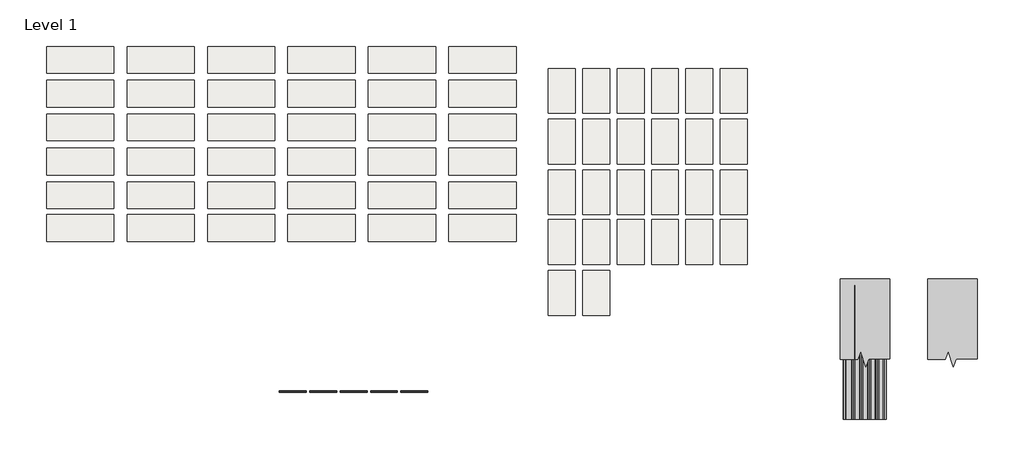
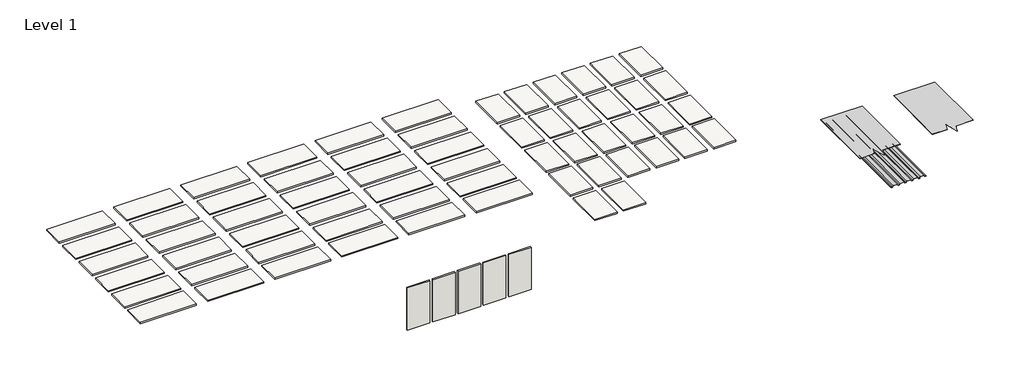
# One storey: 62 slabs, 5 walls, 3 proxies.
"""IFC4 building model written with IfcOpenShell, lengths in millimetres."""

from ifc_helpers import new_model, si_unit, frame, origin, origin_with_axes, place, context, project, spatial, polyline, outline, extrude, transform, mapped, element, save
from components import proxy_b7d9e8bd, section_mask1_section_mask_d04c1bcf

model = new_model("IFC4")

# Units and contexts
model_context = context("Model", 3, world=origin())
ifc_project = project(units=[si_unit("LENGTHUNIT", "METRE", prefix="MILLI")], contexts=[model_context])

# Site, building, storey
site = spatial("IfcSite", under=ifc_project)
building = spatial("IfcBuilding", under=site)
storey = spatial("IfcBuildingStorey", under=building, Name="Level 1", Elevation=0.0)

# Proxies
placement = place(None, origin())
proxy_shape = proxy_b7d9e8bd(model_context)
element("IfcBuildingElementProxy", 1, Name="Metal_Siding_Trapezoidal-Wall-Panel_Steelscape : 36\" Trapezoidal Wall Panel", ObjectType="Metal_Siding_Trapezoidal-Wall-Panel_Steelscape : 36\" Trapezoidal Wall Panel", at=placement, inside=storey, context=model_context, shape_type="MappedRepresentation", body=[
    mapped(proxy_shape, transform((8066.2424454, 2573.2522943, 0.0), x_axis=(1.0, 0.0, 0.0), y_axis=(0.0, 1.0, 0.0), z_axis=(0.0, 0.0, 1.0))),
])
section_mask1_section_mask_shape = section_mask1_section_mask_d04c1bcf(model_context)
element("IfcBuildingElementProxy", 2, Name="Section Mask1 : Section Mask", ObjectType="Section Mask1 : Section Mask", at=placement, inside=storey, context=model_context, shape_type="MappedRepresentation", body=[
    mapped(section_mask1_section_mask_shape, transform((1955.8, 0.0, 0.0), x_axis=(1.0, 0.0, 0.0), y_axis=(0.0, 1.0, 0.0), z_axis=(0.0, 0.0, 1.0))),
])
element("IfcBuildingElementProxy", 3, Name="Section Mask2 : Section Mask", ObjectType="Section Mask2 : Section Mask", at=placement, inside=storey, context=model_context, shape_type="MappedRepresentation", body=[
    mapped(section_mask1_section_mask_shape, transform((-31.75, 0.0, 0.0), x_axis=(1.0, 0.0, 0.0), y_axis=(0.0, 1.0, 0.0), z_axis=(0.0, 0.0, 1.0))),
])

# Slabs
element("IfcSlab", 4, ObjectType="Metal Siding - PAINTED - Steelscape", at=placement, inside=storey, context=model_context, shape_type="SweptSolid", body=[
    extrude(outline(polyline([(-9006.1610252, 7398.0362798), (-10530.1610252, 7398.0362798), (-10530.1610252, 8007.6362798), (-9006.1610252, 8007.6362798), (-9006.1610252, 7398.0362798)])), frame((0.0, 0.0, -38.1), z_axis=(0.0, 0.0, 1.0), x_axis=(1.0, 0.0, 0.0)), (0.0, 0.0, 1.0), 38.1),
])
element("IfcSlab", 5, ObjectType="Metal Siding - PAINTED - Steelscape", at=placement, inside=storey, context=model_context, shape_type="SweptSolid", body=[
    extrude(outline(polyline([(-9006.1610252, 6629.6862798), (-10530.1610252, 6629.6862798), (-10530.1610252, 7239.2862798), (-9006.1610252, 7239.2862798), (-9006.1610252, 6629.6862798)])), frame((0.0, 0.0, -38.1), z_axis=(0.0, 0.0, 1.0), x_axis=(1.0, 0.0, 0.0)), (0.0, 0.0, 1.0), 38.1),
])
element("IfcSlab", 6, ObjectType="Metal Siding - PAINTED - Steelscape", at=placement, inside=storey, context=model_context, shape_type="SweptSolid", body=[
    extrude(outline(polyline([(-9006.1610252, 5861.3362798), (-10530.1610252, 5861.3362798), (-10530.1610252, 6470.9362798), (-9006.1610252, 6470.9362798), (-9006.1610252, 5861.3362798)])), frame((0.0, 0.0, -38.1), z_axis=(0.0, 0.0, 1.0), x_axis=(1.0, 0.0, 0.0)), (0.0, 0.0, 1.0), 38.1),
])
element("IfcSlab", 7, ObjectType="Metal Siding - PAINTED - Steelscape", at=placement, inside=storey, context=model_context, shape_type="SweptSolid", body=[
    extrude(outline(polyline([(-9006.1610252, 5086.6362798), (-10530.1610252, 5086.6362798), (-10530.1610252, 5696.2362798), (-9006.1610252, 5696.2362798), (-9006.1610252, 5086.6362798)])), frame((0.0, 0.0, -38.1), z_axis=(0.0, 0.0, 1.0), x_axis=(1.0, 0.0, 0.0)), (0.0, 0.0, 1.0), 38.1),
])
element("IfcSlab", 8, ObjectType="Metal Siding - PAINTED - Steelscape", at=placement, inside=storey, context=model_context, shape_type="SweptSolid", body=[
    extrude(outline(polyline([(-9006.1610252, 4318.2862798), (-10530.1610252, 4318.2862798), (-10530.1610252, 4927.8862798), (-9006.1610252, 4927.8862798), (-9006.1610252, 4318.2862798)])), frame((0.0, 0.0, -38.1), z_axis=(0.0, 0.0, 1.0), x_axis=(1.0, 0.0, 0.0)), (0.0, 0.0, 1.0), 38.1),
])
element("IfcSlab", 9, ObjectType="Metal Siding - PAINTED - Steelscape", at=placement, inside=storey, context=model_context, shape_type="SweptSolid", body=[
    extrude(outline(polyline([(-9006.1610252, 3575.3362798), (-10530.1610252, 3575.3362798), (-10530.1610252, 4184.9362798), (-9006.1610252, 4184.9362798), (-9006.1610252, 3575.3362798)])), frame((0.0, 0.0, -38.1), z_axis=(0.0, 0.0, 1.0), x_axis=(1.0, 0.0, 0.0)), (0.0, 0.0, 1.0), 38.1),
])
element("IfcSlab", 10, ObjectType="Metal Siding - PAINTED - Steelscape", at=placement, inside=storey, context=model_context, shape_type="SweptSolid", body=[
    extrude(outline(polyline([(-7177.3610252, 7398.0362798), (-8701.3610252, 7398.0362798), (-8701.3610252, 8007.6362798), (-7177.3610252, 8007.6362798), (-7177.3610252, 7398.0362798)])), frame((0.0, 0.0, -38.1), z_axis=(0.0, 0.0, 1.0), x_axis=(1.0, 0.0, 0.0)), (0.0, 0.0, 1.0), 38.1),
])
element("IfcSlab", 11, ObjectType="Metal Siding - PAINTED - Steelscape", at=placement, inside=storey, context=model_context, shape_type="SweptSolid", body=[
    extrude(outline(polyline([(-7177.3610252, 6629.6862798), (-8701.3610252, 6629.6862798), (-8701.3610252, 7239.2862798), (-7177.3610252, 7239.2862798), (-7177.3610252, 6629.6862798)])), frame((0.0, 0.0, -38.1), z_axis=(0.0, 0.0, 1.0), x_axis=(1.0, 0.0, 0.0)), (0.0, 0.0, 1.0), 38.1),
])
element("IfcSlab", 12, ObjectType="Metal Siding - PAINTED - Steelscape", at=placement, inside=storey, context=model_context, shape_type="SweptSolid", body=[
    extrude(outline(polyline([(-7177.3610252, 5861.3362798), (-8701.3610252, 5861.3362798), (-8701.3610252, 6470.9362798), (-7177.3610252, 6470.9362798), (-7177.3610252, 5861.3362798)])), frame((0.0, 0.0, -38.1), z_axis=(0.0, 0.0, 1.0), x_axis=(1.0, 0.0, 0.0)), (0.0, 0.0, 1.0), 38.1),
])
element("IfcSlab", 13, ObjectType="Metal Siding - PAINTED - Steelscape", at=placement, inside=storey, context=model_context, shape_type="SweptSolid", body=[
    extrude(outline(polyline([(-7177.3610252, 5086.6362798), (-8701.3610252, 5086.6362798), (-8701.3610252, 5696.2362798), (-7177.3610252, 5696.2362798), (-7177.3610252, 5086.6362798)])), frame((0.0, 0.0, -38.1), z_axis=(0.0, 0.0, 1.0), x_axis=(1.0, 0.0, 0.0)), (0.0, 0.0, 1.0), 38.1),
])
element("IfcSlab", 14, ObjectType="Metal Siding - PAINTED - Steelscape", at=placement, inside=storey, context=model_context, shape_type="SweptSolid", body=[
    extrude(outline(polyline([(-7177.3610252, 4318.2862798), (-8701.3610252, 4318.2862798), (-8701.3610252, 4927.8862798), (-7177.3610252, 4927.8862798), (-7177.3610252, 4318.2862798)])), frame((0.0, 0.0, -38.1), z_axis=(0.0, 0.0, 1.0), x_axis=(1.0, 0.0, 0.0)), (0.0, 0.0, 1.0), 38.1),
])
element("IfcSlab", 15, ObjectType="Metal Siding - PAINTED - Steelscape", at=placement, inside=storey, context=model_context, shape_type="SweptSolid", body=[
    extrude(outline(polyline([(-7177.3610252, 3575.3362798), (-8701.3610252, 3575.3362798), (-8701.3610252, 4184.9362798), (-7177.3610252, 4184.9362798), (-7177.3610252, 3575.3362798)])), frame((0.0, 0.0, -38.1), z_axis=(0.0, 0.0, 1.0), x_axis=(1.0, 0.0, 0.0)), (0.0, 0.0, 1.0), 38.1),
])
element("IfcSlab", 16, ObjectType="Metal Siding - PAINTED - Steelscape", at=placement, inside=storey, context=model_context, shape_type="SweptSolid", body=[
    extrude(outline(polyline([(-5348.5610252, 7398.0362798), (-6872.5610252, 7398.0362798), (-6872.5610252, 8007.6362798), (-5348.5610252, 8007.6362798), (-5348.5610252, 7398.0362798)])), frame((0.0, 0.0, -38.1), z_axis=(0.0, 0.0, 1.0), x_axis=(1.0, 0.0, 0.0)), (0.0, 0.0, 1.0), 38.1),
])
element("IfcSlab", 17, ObjectType="Metal Siding - PAINTED - Steelscape", at=placement, inside=storey, context=model_context, shape_type="SweptSolid", body=[
    extrude(outline(polyline([(-5348.5610252, 6629.6862798), (-6872.5610252, 6629.6862798), (-6872.5610252, 7239.2862798), (-5348.5610252, 7239.2862798), (-5348.5610252, 6629.6862798)])), frame((0.0, 0.0, -38.1), z_axis=(0.0, 0.0, 1.0), x_axis=(1.0, 0.0, 0.0)), (0.0, 0.0, 1.0), 38.1),
])
element("IfcSlab", 18, ObjectType="Metal Siding - PAINTED - Steelscape", at=placement, inside=storey, context=model_context, shape_type="SweptSolid", body=[
    extrude(outline(polyline([(-5348.5610252, 5861.3362798), (-6872.5610252, 5861.3362798), (-6872.5610252, 6470.9362798), (-5348.5610252, 6470.9362798), (-5348.5610252, 5861.3362798)])), frame((0.0, 0.0, -38.1), z_axis=(0.0, 0.0, 1.0), x_axis=(1.0, 0.0, 0.0)), (0.0, 0.0, 1.0), 38.1),
])
element("IfcSlab", 19, ObjectType="Metal Siding - PAINTED - Steelscape", at=placement, inside=storey, context=model_context, shape_type="SweptSolid", body=[
    extrude(outline(polyline([(-5348.5610252, 5086.6362798), (-6872.5610252, 5086.6362798), (-6872.5610252, 5696.2362798), (-5348.5610252, 5696.2362798), (-5348.5610252, 5086.6362798)])), frame((0.0, 0.0, -38.1), z_axis=(0.0, 0.0, 1.0), x_axis=(1.0, 0.0, 0.0)), (0.0, 0.0, 1.0), 38.1),
])
element("IfcSlab", 20, ObjectType="Metal Siding - PAINTED - Steelscape", at=placement, inside=storey, context=model_context, shape_type="SweptSolid", body=[
    extrude(outline(polyline([(-5348.5610252, 4318.2862798), (-6872.5610252, 4318.2862798), (-6872.5610252, 4927.8862798), (-5348.5610252, 4927.8862798), (-5348.5610252, 4318.2862798)])), frame((0.0, 0.0, -38.1), z_axis=(0.0, 0.0, 1.0), x_axis=(1.0, 0.0, 0.0)), (0.0, 0.0, 1.0), 38.1),
])
element("IfcSlab", 21, ObjectType="Metal Siding - PAINTED - Steelscape", at=placement, inside=storey, context=model_context, shape_type="SweptSolid", body=[
    extrude(outline(polyline([(-5348.5610252, 3575.3362798), (-6872.5610252, 3575.3362798), (-6872.5610252, 4184.9362798), (-5348.5610252, 4184.9362798), (-5348.5610252, 3575.3362798)])), frame((0.0, 0.0, -38.1), z_axis=(0.0, 0.0, 1.0), x_axis=(1.0, 0.0, 0.0)), (0.0, 0.0, 1.0), 38.1),
])
element("IfcSlab", 22, ObjectType="Metal Siding - PAINTED - Steelscape", at=placement, inside=storey, context=model_context, shape_type="SweptSolid", body=[
    extrude(outline(polyline([(-3519.7610252, 7398.0362798), (-5043.7610252, 7398.0362798), (-5043.7610252, 8007.6362798), (-3519.7610252, 8007.6362798), (-3519.7610252, 7398.0362798)])), frame((0.0, 0.0, -38.1), z_axis=(0.0, 0.0, 1.0), x_axis=(1.0, 0.0, 0.0)), (0.0, 0.0, 1.0), 38.1),
])
element("IfcSlab", 23, ObjectType="Metal Siding - PAINTED - Steelscape", at=placement, inside=storey, context=model_context, shape_type="SweptSolid", body=[
    extrude(outline(polyline([(-3519.7610252, 6629.6862798), (-5043.7610252, 6629.6862798), (-5043.7610252, 7239.2862798), (-3519.7610252, 7239.2862798), (-3519.7610252, 6629.6862798)])), frame((0.0, 0.0, -38.1), z_axis=(0.0, 0.0, 1.0), x_axis=(1.0, 0.0, 0.0)), (0.0, 0.0, 1.0), 38.1),
])
element("IfcSlab", 24, ObjectType="Metal Siding - PAINTED - Steelscape", at=placement, inside=storey, context=model_context, shape_type="SweptSolid", body=[
    extrude(outline(polyline([(-3519.7610252, 5861.3362798), (-5043.7610252, 5861.3362798), (-5043.7610252, 6470.9362798), (-3519.7610252, 6470.9362798), (-3519.7610252, 5861.3362798)])), frame((0.0, 0.0, -38.1), z_axis=(0.0, 0.0, 1.0), x_axis=(1.0, 0.0, 0.0)), (0.0, 0.0, 1.0), 38.1),
])
element("IfcSlab", 25, ObjectType="Metal Siding - PAINTED - Steelscape", at=placement, inside=storey, context=model_context, shape_type="SweptSolid", body=[
    extrude(outline(polyline([(-3519.7610252, 5086.6362798), (-5043.7610252, 5086.6362798), (-5043.7610252, 5696.2362798), (-3519.7610252, 5696.2362798), (-3519.7610252, 5086.6362798)])), frame((0.0, 0.0, -38.1), z_axis=(0.0, 0.0, 1.0), x_axis=(1.0, 0.0, 0.0)), (0.0, 0.0, 1.0), 38.1),
])
element("IfcSlab", 26, ObjectType="Metal Siding - PAINTED - Steelscape", at=placement, inside=storey, context=model_context, shape_type="SweptSolid", body=[
    extrude(outline(polyline([(-3519.7610252, 4318.2862798), (-5043.7610252, 4318.2862798), (-5043.7610252, 4927.8862798), (-3519.7610252, 4927.8862798), (-3519.7610252, 4318.2862798)])), frame((0.0, 0.0, -38.1), z_axis=(0.0, 0.0, 1.0), x_axis=(1.0, 0.0, 0.0)), (0.0, 0.0, 1.0), 38.1),
])
element("IfcSlab", 27, ObjectType="Metal Siding - PAINTED - Steelscape", at=placement, inside=storey, context=model_context, shape_type="SweptSolid", body=[
    extrude(outline(polyline([(-3519.7610252, 3575.3362798), (-5043.7610252, 3575.3362798), (-5043.7610252, 4184.9362798), (-3519.7610252, 4184.9362798), (-3519.7610252, 3575.3362798)])), frame((0.0, 0.0, -38.1), z_axis=(0.0, 0.0, 1.0), x_axis=(1.0, 0.0, 0.0)), (0.0, 0.0, 1.0), 38.1),
])
element("IfcSlab", 28, ObjectType="Metal Siding - PAINTED - Steelscape", at=placement, inside=storey, context=model_context, shape_type="SweptSolid", body=[
    extrude(outline(polyline([(-1690.9610252, 7398.0362798), (-3214.9610252, 7398.0362798), (-3214.9610252, 8007.6362798), (-1690.9610252, 8007.6362798), (-1690.9610252, 7398.0362798)])), frame((0.0, 0.0, -38.1), z_axis=(0.0, 0.0, 1.0), x_axis=(1.0, 0.0, 0.0)), (0.0, 0.0, 1.0), 38.1),
])
element("IfcSlab", 29, ObjectType="Metal Siding - PAINTED - Steelscape", at=placement, inside=storey, context=model_context, shape_type="SweptSolid", body=[
    extrude(outline(polyline([(-1690.9610252, 6629.6862798), (-3214.9610252, 6629.6862798), (-3214.9610252, 7239.2862798), (-1690.9610252, 7239.2862798), (-1690.9610252, 6629.6862798)])), frame((0.0, 0.0, -38.1), z_axis=(0.0, 0.0, 1.0), x_axis=(1.0, 0.0, 0.0)), (0.0, 0.0, 1.0), 38.1),
])
element("IfcSlab", 30, ObjectType="Metal Siding - PAINTED - Steelscape", at=placement, inside=storey, context=model_context, shape_type="SweptSolid", body=[
    extrude(outline(polyline([(-1690.9610252, 5861.3362798), (-3214.9610252, 5861.3362798), (-3214.9610252, 6470.9362798), (-1690.9610252, 6470.9362798), (-1690.9610252, 5861.3362798)])), frame((0.0, 0.0, -38.1), z_axis=(0.0, 0.0, 1.0), x_axis=(1.0, 0.0, 0.0)), (0.0, 0.0, 1.0), 38.1),
])
element("IfcSlab", 31, ObjectType="Metal Siding - PAINTED - Steelscape", at=placement, inside=storey, context=model_context, shape_type="SweptSolid", body=[
    extrude(outline(polyline([(-1690.9610252, 5086.6362798), (-3214.9610252, 5086.6362798), (-3214.9610252, 5696.2362798), (-1690.9610252, 5696.2362798), (-1690.9610252, 5086.6362798)])), frame((0.0, 0.0, -38.1), z_axis=(0.0, 0.0, 1.0), x_axis=(1.0, 0.0, 0.0)), (0.0, 0.0, 1.0), 38.1),
])
element("IfcSlab", 32, ObjectType="Metal Siding - PAINTED - Steelscape", at=placement, inside=storey, context=model_context, shape_type="SweptSolid", body=[
    extrude(outline(polyline([(-1690.9610252, 4318.2862798), (-3214.9610252, 4318.2862798), (-3214.9610252, 4927.8862798), (-1690.9610252, 4927.8862798), (-1690.9610252, 4318.2862798)])), frame((0.0, 0.0, -38.1), z_axis=(0.0, 0.0, 1.0), x_axis=(1.0, 0.0, 0.0)), (0.0, 0.0, 1.0), 38.1),
])
element("IfcSlab", 33, ObjectType="Metal Siding - PAINTED - Steelscape", at=placement, inside=storey, context=model_context, shape_type="SweptSolid", body=[
    extrude(outline(polyline([(-1690.9610252, 3575.3362798), (-3214.9610252, 3575.3362798), (-3214.9610252, 4184.9362798), (-1690.9610252, 4184.9362798), (-1690.9610252, 3575.3362798)])), frame((0.0, 0.0, -38.1), z_axis=(0.0, 0.0, 1.0), x_axis=(1.0, 0.0, 0.0)), (0.0, 0.0, 1.0), 38.1),
])
element("IfcSlab", 34, ObjectType="Metal Siding - PAINTED - Steelscape", at=placement, inside=storey, context=model_context, shape_type="SweptSolid", body=[
    extrude(outline(polyline([(137.8389748, 7398.0362798), (-1386.1610252, 7398.0362798), (-1386.1610252, 8007.6362798), (137.8389748, 8007.6362798), (137.8389748, 7398.0362798)])), frame((0.0, 0.0, -38.1), z_axis=(0.0, 0.0, 1.0), x_axis=(1.0, 0.0, 0.0)), (0.0, 0.0, 1.0), 38.1),
])
element("IfcSlab", 35, ObjectType="Metal Siding - PAINTED - Steelscape", at=placement, inside=storey, context=model_context, shape_type="SweptSolid", body=[
    extrude(outline(polyline([(137.8389748, 6629.6862798), (-1386.1610252, 6629.6862798), (-1386.1610252, 7239.2862798), (137.8389748, 7239.2862798), (137.8389748, 6629.6862798)])), frame((0.0, 0.0, -38.1), z_axis=(0.0, 0.0, 1.0), x_axis=(1.0, 0.0, 0.0)), (0.0, 0.0, 1.0), 38.1),
])
element("IfcSlab", 36, ObjectType="Metal Siding - PAINTED - Steelscape", at=placement, inside=storey, context=model_context, shape_type="SweptSolid", body=[
    extrude(outline(polyline([(137.8389748, 5861.3362798), (-1386.1610252, 5861.3362798), (-1386.1610252, 6470.9362798), (137.8389748, 6470.9362798), (137.8389748, 5861.3362798)])), frame((0.0, 0.0, -38.1), z_axis=(0.0, 0.0, 1.0), x_axis=(1.0, 0.0, 0.0)), (0.0, 0.0, 1.0), 38.1),
])
element("IfcSlab", 37, ObjectType="Metal Siding - PAINTED - Steelscape", at=placement, inside=storey, context=model_context, shape_type="SweptSolid", body=[
    extrude(outline(polyline([(137.8389748, 5086.6362798), (-1386.1610252, 5086.6362798), (-1386.1610252, 5696.2362798), (137.8389748, 5696.2362798), (137.8389748, 5086.6362798)])), frame((0.0, 0.0, -38.1), z_axis=(0.0, 0.0, 1.0), x_axis=(1.0, 0.0, 0.0)), (0.0, 0.0, 1.0), 38.1),
])
element("IfcSlab", 38, ObjectType="Metal Siding - PAINTED - Steelscape", at=placement, inside=storey, context=model_context, shape_type="SweptSolid", body=[
    extrude(outline(polyline([(137.8389748, 4318.2862798), (-1386.1610252, 4318.2862798), (-1386.1610252, 4927.8862798), (137.8389748, 4927.8862798), (137.8389748, 4318.2862798)])), frame((0.0, 0.0, -38.1), z_axis=(0.0, 0.0, 1.0), x_axis=(1.0, 0.0, 0.0)), (0.0, 0.0, 1.0), 38.1),
])
element("IfcSlab", 39, ObjectType="Metal Siding - PAINTED - Steelscape", at=placement, inside=storey, context=model_context, shape_type="SweptSolid", body=[
    extrude(outline(polyline([(137.8389748, 3575.3362798), (-1386.1610252, 3575.3362798), (-1386.1610252, 4184.9362798), (137.8389748, 4184.9362798), (137.8389748, 3575.3362798)])), frame((0.0, 0.0, -38.1), z_axis=(0.0, 0.0, 1.0), x_axis=(1.0, 0.0, 0.0)), (0.0, 0.0, 1.0), 38.1),
])
element("IfcSlab", 40, ObjectType="AEP Span Material Sample", at=placement, inside=storey, context=model_context, shape_type="SweptSolid", body=[
    extrude(outline(polyline([(1485.5495194, 6492.0895229), (875.9495194, 6492.0895229), (875.9495194, 7508.0895229), (1485.5495194, 7508.0895229), (1485.5495194, 6492.0895229)])), frame((0.0, 0.0, -38.1), z_axis=(0.0, 0.0, 1.0), x_axis=(1.0, 0.0, 0.0)), (0.0, 0.0, 1.0), 38.1),
])
element("IfcSlab", 41, ObjectType="AEP Span Material Sample", at=placement, inside=storey, context=model_context, shape_type="SweptSolid", body=[
    extrude(outline(polyline([(2266.5995194, 6492.0895229), (1656.9995194, 6492.0895229), (1656.9995194, 7508.0895229), (2266.5995194, 7508.0895229), (2266.5995194, 6492.0895229)])), frame((0.0, 0.0, -38.1), z_axis=(0.0, 0.0, 1.0), x_axis=(1.0, 0.0, 0.0)), (0.0, 0.0, 1.0), 38.1),
])
element("IfcSlab", 42, ObjectType="AEP Span Material Sample", at=placement, inside=storey, context=model_context, shape_type="SweptSolid", body=[
    extrude(outline(polyline([(3047.6495194, 6492.0895229), (2438.0495194, 6492.0895229), (2438.0495194, 7508.0895229), (3047.6495194, 7508.0895229), (3047.6495194, 6492.0895229)])), frame((0.0, 0.0, -38.1), z_axis=(0.0, 0.0, 1.0), x_axis=(1.0, 0.0, 0.0)), (0.0, 0.0, 1.0), 38.1),
])
element("IfcSlab", 43, ObjectType="AEP Span Material Sample", at=placement, inside=storey, context=model_context, shape_type="SweptSolid", body=[
    extrude(outline(polyline([(3828.6995194, 6492.0895229), (3219.0995194, 6492.0895229), (3219.0995194, 7508.0895229), (3828.6995194, 7508.0895229), (3828.6995194, 6492.0895229)])), frame((0.0, 0.0, -38.1), z_axis=(0.0, 0.0, 1.0), x_axis=(1.0, 0.0, 0.0)), (0.0, 0.0, 1.0), 38.1),
])
element("IfcSlab", 44, ObjectType="AEP Span Material Sample", at=placement, inside=storey, context=model_context, shape_type="SweptSolid", body=[
    extrude(outline(polyline([(4609.7495194, 6492.0895229), (4000.1495194, 6492.0895229), (4000.1495194, 7508.0895229), (4609.7495194, 7508.0895229), (4609.7495194, 6492.0895229)])), frame((0.0, 0.0, -38.1), z_axis=(0.0, 0.0, 1.0), x_axis=(1.0, 0.0, 0.0)), (0.0, 0.0, 1.0), 38.1),
])
element("IfcSlab", 45, ObjectType="AEP Span Material Sample", at=placement, inside=storey, context=model_context, shape_type="SweptSolid", body=[
    extrude(outline(polyline([(5390.7995194, 6492.0895229), (4781.1995194, 6492.0895229), (4781.1995194, 7508.0895229), (5390.7995194, 7508.0895229), (5390.7995194, 6492.0895229)])), frame((0.0, 0.0, -38.1), z_axis=(0.0, 0.0, 1.0), x_axis=(1.0, 0.0, 0.0)), (0.0, 0.0, 1.0), 38.1),
])
element("IfcSlab", 46, ObjectType="AEP Span Material Sample", at=placement, inside=storey, context=model_context, shape_type="SweptSolid", body=[
    extrude(outline(polyline([(1485.5495194, 5336.3895229), (875.9495194, 5336.3895229), (875.9495194, 6352.3895229), (1485.5495194, 6352.3895229), (1485.5495194, 5336.3895229)])), frame((0.0, 0.0, -38.1), z_axis=(0.0, 0.0, 1.0), x_axis=(1.0, 0.0, 0.0)), (0.0, 0.0, 1.0), 38.1),
])
element("IfcSlab", 47, ObjectType="AEP Span Material Sample", at=placement, inside=storey, context=model_context, shape_type="SweptSolid", body=[
    extrude(outline(polyline([(2266.5995194, 5336.3895229), (1656.9995194, 5336.3895229), (1656.9995194, 6352.3895229), (2266.5995194, 6352.3895229), (2266.5995194, 5336.3895229)])), frame((0.0, 0.0, -38.1), z_axis=(0.0, 0.0, 1.0), x_axis=(1.0, 0.0, 0.0)), (0.0, 0.0, 1.0), 38.1),
])
element("IfcSlab", 48, ObjectType="AEP Span Material Sample", at=placement, inside=storey, context=model_context, shape_type="SweptSolid", body=[
    extrude(outline(polyline([(3047.6495194, 5336.3895229), (2438.0495194, 5336.3895229), (2438.0495194, 6352.3895229), (3047.6495194, 6352.3895229), (3047.6495194, 5336.3895229)])), frame((0.0, 0.0, -38.1), z_axis=(0.0, 0.0, 1.0), x_axis=(1.0, 0.0, 0.0)), (0.0, 0.0, 1.0), 38.1),
])
element("IfcSlab", 49, ObjectType="AEP Span Material Sample", at=placement, inside=storey, context=model_context, shape_type="SweptSolid", body=[
    extrude(outline(polyline([(3828.6995194, 5336.3895229), (3219.0995194, 5336.3895229), (3219.0995194, 6352.3895229), (3828.6995194, 6352.3895229), (3828.6995194, 5336.3895229)])), frame((0.0, 0.0, -38.1), z_axis=(0.0, 0.0, 1.0), x_axis=(1.0, 0.0, 0.0)), (0.0, 0.0, 1.0), 38.1),
])
element("IfcSlab", 50, ObjectType="AEP Span Material Sample", at=placement, inside=storey, context=model_context, shape_type="SweptSolid", body=[
    extrude(outline(polyline([(4609.7495194, 5336.3895229), (4000.1495194, 5336.3895229), (4000.1495194, 6352.3895229), (4609.7495194, 6352.3895229), (4609.7495194, 5336.3895229)])), frame((0.0, 0.0, -38.1), z_axis=(0.0, 0.0, 1.0), x_axis=(1.0, 0.0, 0.0)), (0.0, 0.0, 1.0), 38.1),
])
element("IfcSlab", 51, ObjectType="AEP Span Material Sample", at=placement, inside=storey, context=model_context, shape_type="SweptSolid", body=[
    extrude(outline(polyline([(5390.7995194, 5336.3895229), (4781.1995194, 5336.3895229), (4781.1995194, 6352.3895229), (5390.7995194, 6352.3895229), (5390.7995194, 5336.3895229)])), frame((0.0, 0.0, -38.1), z_axis=(0.0, 0.0, 1.0), x_axis=(1.0, 0.0, 0.0)), (0.0, 0.0, 1.0), 38.1),
])
element("IfcSlab", 52, ObjectType="AEP Span Material Sample", at=placement, inside=storey, context=model_context, shape_type="SweptSolid", body=[
    extrude(outline(polyline([(1485.5495194, 4180.6895229), (875.9495194, 4180.6895229), (875.9495194, 5196.6895229), (1485.5495194, 5196.6895229), (1485.5495194, 4180.6895229)])), frame((0.0, 0.0, -38.1), z_axis=(0.0, 0.0, 1.0), x_axis=(1.0, 0.0, 0.0)), (0.0, 0.0, 1.0), 38.1),
])
element("IfcSlab", 53, ObjectType="AEP Span Material Sample", at=placement, inside=storey, context=model_context, shape_type="SweptSolid", body=[
    extrude(outline(polyline([(2266.5995194, 4180.6895229), (1656.9995194, 4180.6895229), (1656.9995194, 5196.6895229), (2266.5995194, 5196.6895229), (2266.5995194, 4180.6895229)])), frame((0.0, 0.0, -38.1), z_axis=(0.0, 0.0, 1.0), x_axis=(1.0, 0.0, 0.0)), (0.0, 0.0, 1.0), 38.1),
])
element("IfcSlab", 54, ObjectType="AEP Span Material Sample", at=placement, inside=storey, context=model_context, shape_type="SweptSolid", body=[
    extrude(outline(polyline([(3047.6495194, 4180.6895229), (2438.0495194, 4180.6895229), (2438.0495194, 5196.6895229), (3047.6495194, 5196.6895229), (3047.6495194, 4180.6895229)])), frame((0.0, 0.0, -38.1), z_axis=(0.0, 0.0, 1.0), x_axis=(1.0, 0.0, 0.0)), (0.0, 0.0, 1.0), 38.1),
])
element("IfcSlab", 55, ObjectType="AEP Span Material Sample", at=placement, inside=storey, context=model_context, shape_type="SweptSolid", body=[
    extrude(outline(polyline([(3828.6995194, 4180.6895229), (3219.0995194, 4180.6895229), (3219.0995194, 5196.6895229), (3828.6995194, 5196.6895229), (3828.6995194, 4180.6895229)])), frame((0.0, 0.0, -38.1), z_axis=(0.0, 0.0, 1.0), x_axis=(1.0, 0.0, 0.0)), (0.0, 0.0, 1.0), 38.1),
])
element("IfcSlab", 56, ObjectType="AEP Span Material Sample", at=placement, inside=storey, context=model_context, shape_type="SweptSolid", body=[
    extrude(outline(polyline([(4609.7495194, 4180.6895229), (4000.1495194, 4180.6895229), (4000.1495194, 5196.6895229), (4609.7495194, 5196.6895229), (4609.7495194, 4180.6895229)])), frame((0.0, 0.0, -38.1), z_axis=(0.0, 0.0, 1.0), x_axis=(1.0, 0.0, 0.0)), (0.0, 0.0, 1.0), 38.1),
])
element("IfcSlab", 57, ObjectType="AEP Span Material Sample", at=placement, inside=storey, context=model_context, shape_type="SweptSolid", body=[
    extrude(outline(polyline([(5390.7995194, 4180.6895229), (4781.1995194, 4180.6895229), (4781.1995194, 5196.6895229), (5390.7995194, 5196.6895229), (5390.7995194, 4180.6895229)])), frame((0.0, 0.0, -38.1), z_axis=(0.0, 0.0, 1.0), x_axis=(1.0, 0.0, 0.0)), (0.0, 0.0, 1.0), 38.1),
])
element("IfcSlab", 58, ObjectType="AEP Span Material Sample", at=placement, inside=storey, context=model_context, shape_type="SweptSolid", body=[
    extrude(outline(polyline([(1485.5495194, 3050.3895229), (875.9495194, 3050.3895229), (875.9495194, 4066.3895229), (1485.5495194, 4066.3895229), (1485.5495194, 3050.3895229)])), frame((0.0, 0.0, -38.1), z_axis=(0.0, 0.0, 1.0), x_axis=(1.0, 0.0, 0.0)), (0.0, 0.0, 1.0), 38.1),
])
element("IfcSlab", 59, ObjectType="AEP Span Material Sample", at=placement, inside=storey, context=model_context, shape_type="SweptSolid", body=[
    extrude(outline(polyline([(2266.5995194, 3050.3895229), (1656.9995194, 3050.3895229), (1656.9995194, 4066.3895229), (2266.5995194, 4066.3895229), (2266.5995194, 3050.3895229)])), frame((0.0, 0.0, -38.1), z_axis=(0.0, 0.0, 1.0), x_axis=(1.0, 0.0, 0.0)), (0.0, 0.0, 1.0), 38.1),
])
element("IfcSlab", 60, ObjectType="AEP Span Material Sample", at=placement, inside=storey, context=model_context, shape_type="SweptSolid", body=[
    extrude(outline(polyline([(3047.6495194, 3050.3895229), (2438.0495194, 3050.3895229), (2438.0495194, 4066.3895229), (3047.6495194, 4066.3895229), (3047.6495194, 3050.3895229)])), frame((0.0, 0.0, -38.1), z_axis=(0.0, 0.0, 1.0), x_axis=(1.0, 0.0, 0.0)), (0.0, 0.0, 1.0), 38.1),
])
element("IfcSlab", 61, ObjectType="AEP Span Material Sample", at=placement, inside=storey, context=model_context, shape_type="SweptSolid", body=[
    extrude(outline(polyline([(3828.6995194, 3050.3895229), (3219.0995194, 3050.3895229), (3219.0995194, 4066.3895229), (3828.6995194, 4066.3895229), (3828.6995194, 3050.3895229)])), frame((0.0, 0.0, -38.1), z_axis=(0.0, 0.0, 1.0), x_axis=(1.0, 0.0, 0.0)), (0.0, 0.0, 1.0), 38.1),
])
element("IfcSlab", 62, ObjectType="AEP Span Material Sample", at=placement, inside=storey, context=model_context, shape_type="SweptSolid", body=[
    extrude(outline(polyline([(4609.7495194, 3050.3895229), (4000.1495194, 3050.3895229), (4000.1495194, 4066.3895229), (4609.7495194, 4066.3895229), (4609.7495194, 3050.3895229)])), frame((0.0, 0.0, -38.1), z_axis=(0.0, 0.0, 1.0), x_axis=(1.0, 0.0, 0.0)), (0.0, 0.0, 1.0), 38.1),
])
element("IfcSlab", 63, ObjectType="AEP Span Material Sample", at=placement, inside=storey, context=model_context, shape_type="SweptSolid", body=[
    extrude(outline(polyline([(5390.7995194, 3050.3895229), (4781.1995194, 3050.3895229), (4781.1995194, 4066.3895229), (5390.7995194, 4066.3895229), (5390.7995194, 3050.3895229)])), frame((0.0, 0.0, -38.1), z_axis=(0.0, 0.0, 1.0), x_axis=(1.0, 0.0, 0.0)), (0.0, 0.0, 1.0), 38.1),
])
element("IfcSlab", 64, ObjectType="AEP Span Material Sample", at=placement, inside=storey, context=model_context, shape_type="SweptSolid", body=[
    extrude(outline(polyline([(1485.5495194, 1894.6895229), (875.9495194, 1894.6895229), (875.9495194, 2910.6895229), (1485.5495194, 2910.6895229), (1485.5495194, 1894.6895229)])), frame((0.0, 0.0, -38.1), z_axis=(0.0, 0.0, 1.0), x_axis=(1.0, 0.0, 0.0)), (0.0, 0.0, 1.0), 38.1),
])
element("IfcSlab", 65, ObjectType="AEP Span Material Sample", at=placement, inside=storey, context=model_context, shape_type="SweptSolid", body=[
    extrude(outline(polyline([(2266.5995194, 1894.6895229), (1656.9995194, 1894.6895229), (1656.9995194, 2910.6895229), (2266.5995194, 2910.6895229), (2266.5995194, 1894.6895229)])), frame((0.0, 0.0, -38.1), z_axis=(0.0, 0.0, 1.0), x_axis=(1.0, 0.0, 0.0)), (0.0, 0.0, 1.0), 38.1),
])

# Walls
element("IfcWall", 66, ObjectType="36\" Trapezoidal Wall Panel", at=placement, inside=storey, context=model_context, shape_type="SweptSolid", body=[
    extrude(outline(polyline([(-3937.6388046, 141.2022943), (-4547.2388046, 141.2022943), (-4547.2388046, 179.3022943), (-3937.6388046, 179.3022943), (-3937.6388046, 141.2022943)])), origin_with_axes(), (0.0, 0.0, 1.0), 1219.2),
])
element("IfcWall", 67, ObjectType="36\" Trapezoidal Wall Panel", at=placement, inside=storey, context=model_context, shape_type="SweptSolid", body=[
    extrude(outline(polyline([(-3247.4731796, 141.2022943), (-3857.0731796, 141.2022943), (-3857.0731796, 179.3022943), (-3247.4731796, 179.3022943), (-3247.4731796, 141.2022943)])), origin_with_axes(), (0.0, 0.0, 1.0), 1219.2),
])
element("IfcWall", 68, ObjectType="36\" Trapezoidal Wall Panel", at=placement, inside=storey, context=model_context, shape_type="SweptSolid", body=[
    extrude(outline(polyline([(-2557.3075546, 141.2022943), (-3166.9075546, 141.2022943), (-3166.9075546, 179.3022943), (-2557.3075546, 179.3022943), (-2557.3075546, 141.2022943)])), origin_with_axes(), (0.0, 0.0, 1.0), 1219.2),
])
element("IfcWall", 69, ObjectType="36\" Trapezoidal Wall Panel", at=placement, inside=storey, context=model_context, shape_type="SweptSolid", body=[
    extrude(outline(polyline([(-1867.1419296, 141.2022943), (-2476.7419296, 141.2022943), (-2476.7419296, 179.3022943), (-1867.1419296, 179.3022943), (-1867.1419296, 141.2022943)])), origin_with_axes(), (0.0, 0.0, 1.0), 1219.2),
])
element("IfcWall", 70, ObjectType="36\" Trapezoidal Wall Panel", at=placement, inside=storey, context=model_context, shape_type="SweptSolid", body=[
    extrude(outline(polyline([(-4627.8044296, 141.2022943), (-5237.4044296, 141.2022943), (-5237.4044296, 179.3022943), (-4627.8044296, 179.3022943), (-4627.8044296, 141.2022943)])), origin_with_axes(), (0.0, 0.0, 1.0), 1219.2),
])

save(model, "model.ifc")
